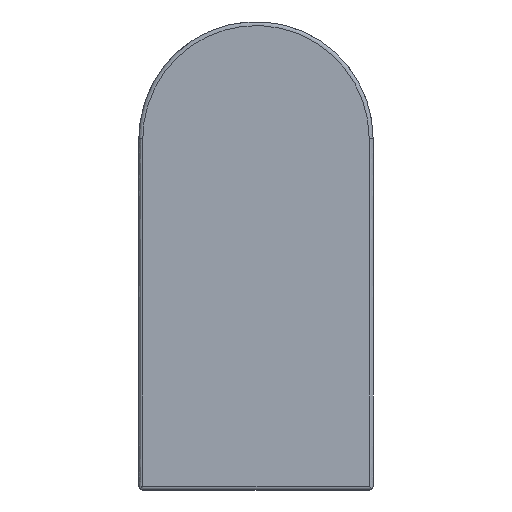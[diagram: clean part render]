
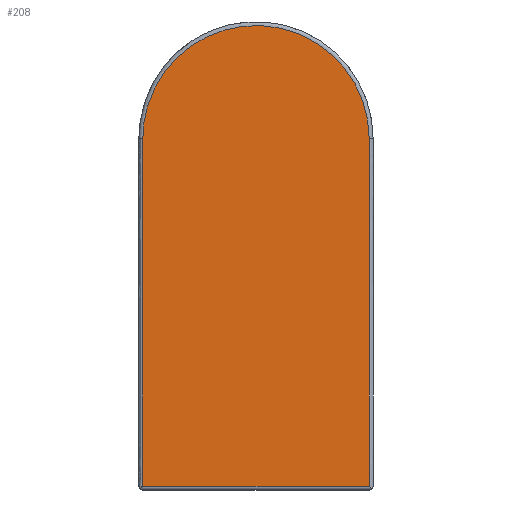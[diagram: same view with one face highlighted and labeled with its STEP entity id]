
A CAD part, left-side view. The second image highlights one B-rep face of the part: STEP entity #208.
In plain terms, the highlighted planar face has unit normal (-1, 0, 0).
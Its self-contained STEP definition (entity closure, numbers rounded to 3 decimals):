
#208=ADVANCED_FACE('',(#325),#1822,.T.);
#325=FACE_OUTER_BOUND('',#442,.T.);
#442=EDGE_LOOP('',(#823,#824,#825,#826));
#823=ORIENTED_EDGE('',*,*,#1192,.T.);
#824=ORIENTED_EDGE('',*,*,#1185,.T.);
#825=ORIENTED_EDGE('',*,*,#1190,.T.);
#826=ORIENTED_EDGE('',*,*,#1191,.T.);
#1185=EDGE_CURVE('',#1673,#1675,#1403,.T.);
#1190=EDGE_CURVE('',#1675,#1674,#1407,.T.);
#1191=EDGE_CURVE('',#1674,#1672,#1408,.T.);
#1192=EDGE_CURVE('',#1672,#1673,#1409,.T.);
#1403=(
BOUNDED_CURVE()
B_SPLINE_CURVE(2,(#3957,#3958,#3959,#3960,#3961,#3962,#3963,#3964,#3965),
 .UNSPECIFIED.,.F.,.F.)
B_SPLINE_CURVE_WITH_KNOTS((3,2,2,2,3),(0.,113.883,227.766,
341.648,455.531),.UNSPECIFIED.)
CURVE()
GEOMETRIC_REPRESENTATION_ITEM()
RATIONAL_B_SPLINE_CURVE((1.,0.924,1.,0.924,1.,0.924,
1.,0.924,1.))
REPRESENTATION_ITEM('')
);
#1407=(
BOUNDED_CURVE()
B_SPLINE_CURVE(1,(#3982,#3983),.UNSPECIFIED.,.F.,.F.)
B_SPLINE_CURVE_WITH_KNOTS((2,2),(0.,444.999),
 .UNSPECIFIED.)
CURVE()
GEOMETRIC_REPRESENTATION_ITEM()
RATIONAL_B_SPLINE_CURVE((1.,1.))
REPRESENTATION_ITEM('')
);
#1408=(
BOUNDED_CURVE()
B_SPLINE_CURVE(1,(#3984,#3985),.UNSPECIFIED.,.F.,.F.)
B_SPLINE_CURVE_WITH_KNOTS((2,2),(5.,295.),
 .UNSPECIFIED.)
CURVE()
GEOMETRIC_REPRESENTATION_ITEM()
RATIONAL_B_SPLINE_CURVE((1.,1.))
REPRESENTATION_ITEM('')
);
#1409=(
BOUNDED_CURVE()
B_SPLINE_CURVE(1,(#3986,#3987),.UNSPECIFIED.,.F.,.F.)
B_SPLINE_CURVE_WITH_KNOTS((2,2),(5.,450.),.UNSPECIFIED.)
CURVE()
GEOMETRIC_REPRESENTATION_ITEM()
RATIONAL_B_SPLINE_CURVE((1.,1.))
REPRESENTATION_ITEM('')
);
#1672=VERTEX_POINT('',#3806);
#1673=VERTEX_POINT('',#3807);
#1674=VERTEX_POINT('',#3808);
#1675=VERTEX_POINT('',#3809);
#1822=PLANE('',#1876);
#1876=AXIS2_PLACEMENT_3D('',#3720,#1914,$);
#1914=DIRECTION('',(-1.,0.,0.));
#3720=CARTESIAN_POINT('',(-330.,187.5,-75.));
#3806=CARTESIAN_POINT('',(-330.,-145.,5.));
#3807=CARTESIAN_POINT('',(-330.,-145.,450.));
#3808=CARTESIAN_POINT('',(-330.,145.,5.));
#3809=CARTESIAN_POINT('',(-330.,145.,449.999));
#3957=CARTESIAN_POINT('',(-330.,-145.,450.));
#3958=CARTESIAN_POINT('',(-330.,-145.,510.061));
#3959=CARTESIAN_POINT('',(-330.,-102.531,552.531));
#3960=CARTESIAN_POINT('',(-330.,-60.061,595.));
#3961=CARTESIAN_POINT('',(-330.,0.,595.));
#3962=CARTESIAN_POINT('',(-330.,60.061,595.));
#3963=CARTESIAN_POINT('',(-330.,102.53,552.53));
#3964=CARTESIAN_POINT('',(-330.,145.,510.06));
#3965=CARTESIAN_POINT('',(-330.,145.,449.999));
#3982=CARTESIAN_POINT('',(-330.,145.,449.999));
#3983=CARTESIAN_POINT('',(-330.,145.,5.));
#3984=CARTESIAN_POINT('',(-330.,145.,5.));
#3985=CARTESIAN_POINT('',(-330.,-145.,5.));
#3986=CARTESIAN_POINT('',(-330.,-145.,5.));
#3987=CARTESIAN_POINT('',(-330.,-145.,450.));
